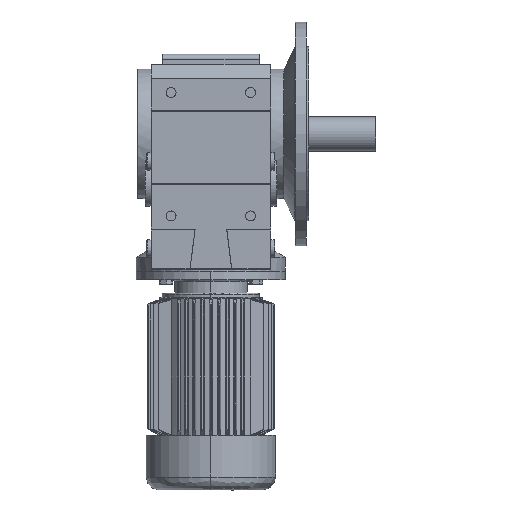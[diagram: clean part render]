
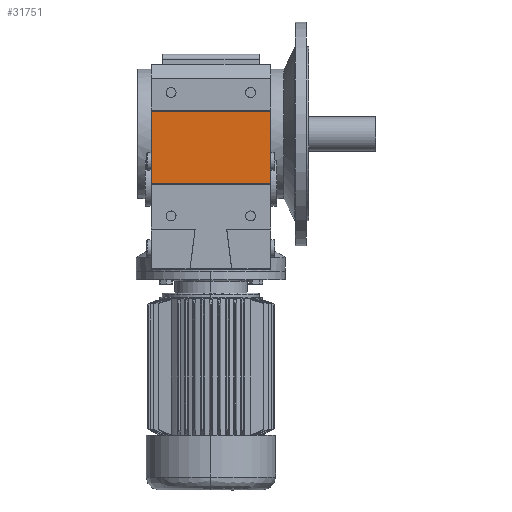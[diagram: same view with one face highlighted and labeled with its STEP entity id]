
A CAD part, front view. The second image highlights one B-rep face of the part: STEP entity #31751.
In plain terms, the highlighted planar face has unit normal (0, -1, 0).
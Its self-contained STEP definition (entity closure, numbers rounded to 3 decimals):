
#1277 = EDGE_CURVE ( 'NONE', #1498, #59149, #24782, .T. ) ;
#1393 = DIRECTION ( 'NONE',  ( 0., -1., 0. ) ) ;
#1498 = VERTEX_POINT ( 'NONE', #24270 ) ;
#5591 = EDGE_CURVE ( 'NONE', #1498, #54956, #34056, .T. ) ;
#6747 = DIRECTION ( 'NONE',  ( 0., 0., -1. ) ) ;
#7151 = VECTOR ( 'NONE', #30867, 1000. ) ;
#8006 = CARTESIAN_POINT ( 'NONE',  ( -190.664, -243.818, -69.86 ) ) ;
#10042 = ORIENTED_EDGE ( 'NONE', *, *, #1277, .F. ) ;
#11371 = DIRECTION ( 'NONE',  ( 1., 0., 0. ) ) ;
#11498 = CARTESIAN_POINT ( 'NONE',  ( -190.664, -243.818, -69.86 ) ) ;
#15581 = VECTOR ( 'NONE', #65417, 1000. ) ;
#15743 = AXIS2_PLACEMENT_3D ( 'NONE', #37218, #1393, #6747 ) ;
#16992 = CARTESIAN_POINT ( 'NONE',  ( 49.336, -243.818, -69.86 ) ) ;
#19231 = ORIENTED_EDGE ( 'NONE', *, *, #24371, .T. ) ;
#20891 = FACE_OUTER_BOUND ( 'NONE', #41850, .T. ) ;
#21789 = EDGE_CURVE ( 'NONE', #23583, #59149, #54186, .T. ) ;
#22933 = ORIENTED_EDGE ( 'NONE', *, *, #5591, .T. ) ;
#23583 = VERTEX_POINT ( 'NONE', #16992 ) ;
#24270 = CARTESIAN_POINT ( 'NONE',  ( -190.664, -243.818, 75.492 ) ) ;
#24371 = EDGE_CURVE ( 'NONE', #54956, #23583, #41132, .T. ) ;
#24782 = LINE ( 'NONE', #31914, #43168 ) ;
#28229 = CARTESIAN_POINT ( 'NONE',  ( 49.336, -243.818, 75.492 ) ) ;
#28869 = ORIENTED_EDGE ( 'NONE', *, *, #21789, .T. ) ;
#30867 = DIRECTION ( 'NONE',  ( 0., 0., 1. ) ) ;
#31751 = ADVANCED_FACE ( 'NONE', ( #20891 ), #35728, .T. ) ;
#31914 = CARTESIAN_POINT ( 'NONE',  ( -190.664, -243.818, 75.492 ) ) ;
#32214 = CARTESIAN_POINT ( 'NONE',  ( 49.336, -243.818, 351.192 ) ) ;
#34056 = LINE ( 'NONE', #8006, #46838 ) ;
#35728 = PLANE ( 'NONE',  #15743 ) ;
#37218 = CARTESIAN_POINT ( 'NONE',  ( -190.664, -243.818, -69.86 ) ) ;
#41132 = LINE ( 'NONE', #65856, #15581 ) ;
#41850 = EDGE_LOOP ( 'NONE', ( #22933, #19231, #28869, #10042 ) ) ;
#43168 = VECTOR ( 'NONE', #11371, 1000. ) ;
#46838 = VECTOR ( 'NONE', #64671, 1000. ) ;
#54186 = LINE ( 'NONE', #32214, #7151 ) ;
#54956 = VERTEX_POINT ( 'NONE', #11498 ) ;
#59149 = VERTEX_POINT ( 'NONE', #28229 ) ;
#64671 = DIRECTION ( 'NONE',  ( 0., 0., -1. ) ) ;
#65417 = DIRECTION ( 'NONE',  ( 1., 0., 0. ) ) ;
#65856 = CARTESIAN_POINT ( 'NONE',  ( -190.664, -243.818, -69.86 ) ) ;
